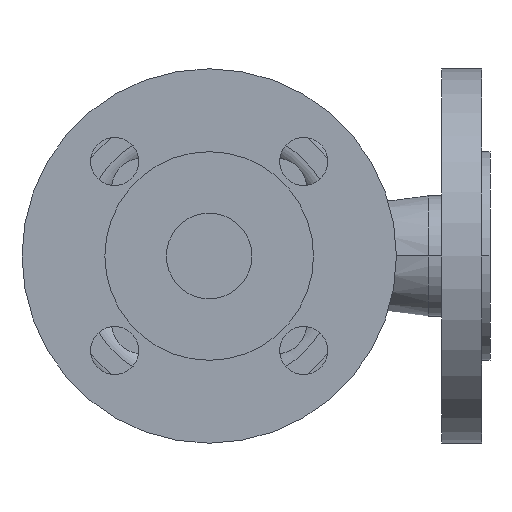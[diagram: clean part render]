
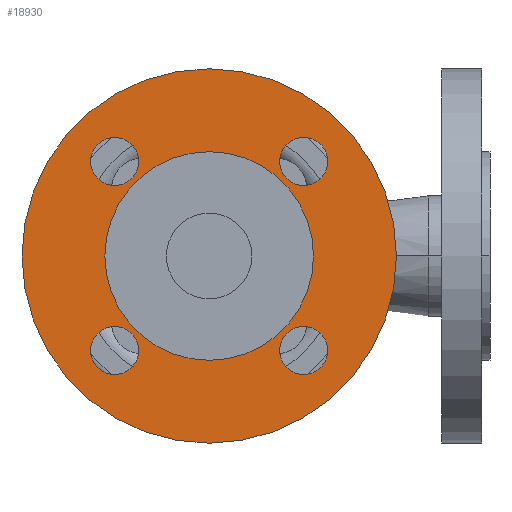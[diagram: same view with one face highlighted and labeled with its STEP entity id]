
A CAD part, front view. The second image highlights one B-rep face of the part: STEP entity #18930.
In plain terms, the highlighted planar face has unit normal (0, -1, 0).
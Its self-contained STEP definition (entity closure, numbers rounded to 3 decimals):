
#610=CARTESIAN_POINT('',(39.,3.,0.));
#620=VERTEX_POINT('',#610);
#780=CARTESIAN_POINT('',(-39.,3.,0.));
#790=VERTEX_POINT('',#780);
#820=CARTESIAN_POINT('',(0.,3.,0.));
#830=DIRECTION('',(0.,-1.,0.));
#840=DIRECTION('',(-1.,0.,0.));
#850=AXIS2_PLACEMENT_3D('',#820,#830,#840);
#860=CIRCLE('',#850,39.);
#870=EDGE_CURVE('',#620,#790,#860,.T.);
#3580=CARTESIAN_POINT('',(-70.,3.,0.));
#3590=VERTEX_POINT('',#3580);
#3750=CARTESIAN_POINT('',(70.,3.,0.));
#3760=VERTEX_POINT('',#3750);
#3790=CARTESIAN_POINT('',(0.,3.,0.));
#3800=DIRECTION('',(0.,1.,0.));
#3810=DIRECTION('',(1.,0.,0.));
#3820=AXIS2_PLACEMENT_3D('',#3790,#3800,#3810);
#3830=CIRCLE('',#3820,70.);
#3840=EDGE_CURVE('',#3590,#3760,#3830,.T.);
#4070=CARTESIAN_POINT('',(26.355,3.,-35.355));
#4080=VERTEX_POINT('',#4070);
#4110=CARTESIAN_POINT('',(35.355,3.,-35.355));
#4120=DIRECTION('',(0.,1.,0.));
#4130=DIRECTION('',(1.,0.,0.));
#4140=AXIS2_PLACEMENT_3D('',#4110,#4120,#4130);
#4150=CIRCLE('',#4140,9.);
#4160=CARTESIAN_POINT('',(44.355,3.,-35.355));
#4170=VERTEX_POINT('',#4160);
#4180=EDGE_CURVE('',#4080,#4170,#4150,.T.);
#4560=CARTESIAN_POINT('',(26.355,3.,35.355));
#4570=VERTEX_POINT('',#4560);
#4730=CARTESIAN_POINT('',(44.355,3.,35.355));
#4740=VERTEX_POINT('',#4730);
#4770=CARTESIAN_POINT('',(35.355,3.,35.355));
#4780=DIRECTION('',(0.,1.,0.));
#4790=DIRECTION('',(1.,0.,0.));
#4800=AXIS2_PLACEMENT_3D('',#4770,#4780,#4790);
#4810=CIRCLE('',#4800,9.);
#4820=EDGE_CURVE('',#4740,#4570,#4810,.T.);
#5050=CARTESIAN_POINT('',(-26.355,3.,-35.355));
#5060=VERTEX_POINT('',#5050);
#5090=CARTESIAN_POINT('',(-35.355,3.,-35.355));
#5100=DIRECTION('',(0.,1.,0.));
#5110=DIRECTION('',(1.,0.,0.));
#5120=AXIS2_PLACEMENT_3D('',#5090,#5100,#5110);
#5130=CIRCLE('',#5120,9.);
#5140=CARTESIAN_POINT('',(-44.355,3.,-35.355));
#5150=VERTEX_POINT('',#5140);
#5160=EDGE_CURVE('',#5060,#5150,#5130,.T.);
#5540=CARTESIAN_POINT('',(-26.355,3.,35.355));
#5550=VERTEX_POINT('',#5540);
#5580=CARTESIAN_POINT('',(-35.355,3.,35.355));
#5590=DIRECTION('',(0.,1.,0.));
#5600=DIRECTION('',(1.,0.,0.));
#5610=AXIS2_PLACEMENT_3D('',#5580,#5590,#5600);
#5620=CIRCLE('',#5610,9.);
#5630=CARTESIAN_POINT('',(-44.355,3.,35.355));
#5640=VERTEX_POINT('',#5630);
#5650=EDGE_CURVE('',#5550,#5640,#5620,.T.);
#18580=CARTESIAN_POINT('',(0.,3.,0.));
#18590=DIRECTION('',(0.,1.,0.));
#18600=DIRECTION('',(0.,0.,1.));
#18610=AXIS2_PLACEMENT_3D('',#18580,#18590,#18600);
#18620=PLANE('',#18610);
#18630=ORIENTED_EDGE('',*,*,#5650,.T.);
#18640=EDGE_CURVE('',#5640,#5550,#5620,.T.);
#18650=ORIENTED_EDGE('',*,*,#18640,.T.);
#18660=EDGE_LOOP('',(#18650,#18630));
#18670=FACE_BOUND('',#18660,.T.);
#18680=ORIENTED_EDGE('',*,*,#5160,.T.);
#18690=EDGE_CURVE('',#5150,#5060,#5130,.T.);
#18700=ORIENTED_EDGE('',*,*,#18690,.T.);
#18710=EDGE_LOOP('',(#18700,#18680));
#18720=FACE_BOUND('',#18710,.T.);
#18730=EDGE_CURVE('',#4570,#4740,#4810,.T.);
#18740=ORIENTED_EDGE('',*,*,#18730,.T.);
#18750=ORIENTED_EDGE('',*,*,#4820,.T.);
#18760=EDGE_LOOP('',(#18750,#18740));
#18770=FACE_BOUND('',#18760,.T.);
#18780=ORIENTED_EDGE('',*,*,#4180,.T.);
#18790=EDGE_CURVE('',#4170,#4080,#4150,.T.);
#18800=ORIENTED_EDGE('',*,*,#18790,.T.);
#18810=EDGE_LOOP('',(#18800,#18780));
#18820=FACE_BOUND('',#18810,.T.);
#18830=EDGE_CURVE('',#3760,#3590,#3830,.T.);
#18840=ORIENTED_EDGE('',*,*,#18830,.F.);
#18850=ORIENTED_EDGE('',*,*,#3840,.F.);
#18860=EDGE_LOOP('',(#18850,#18840));
#18870=FACE_OUTER_BOUND('',#18860,.T.);
#18880=EDGE_CURVE('',#790,#620,#860,.T.);
#18890=ORIENTED_EDGE('',*,*,#18880,.F.);
#18900=ORIENTED_EDGE('',*,*,#870,.F.);
#18910=EDGE_LOOP('',(#18900,#18890));
#18920=FACE_BOUND('',#18910,.T.);
#18930=ADVANCED_FACE('',(#18670,#18720,#18770,#18820,#18870,#18920),
#18620,.F.);
